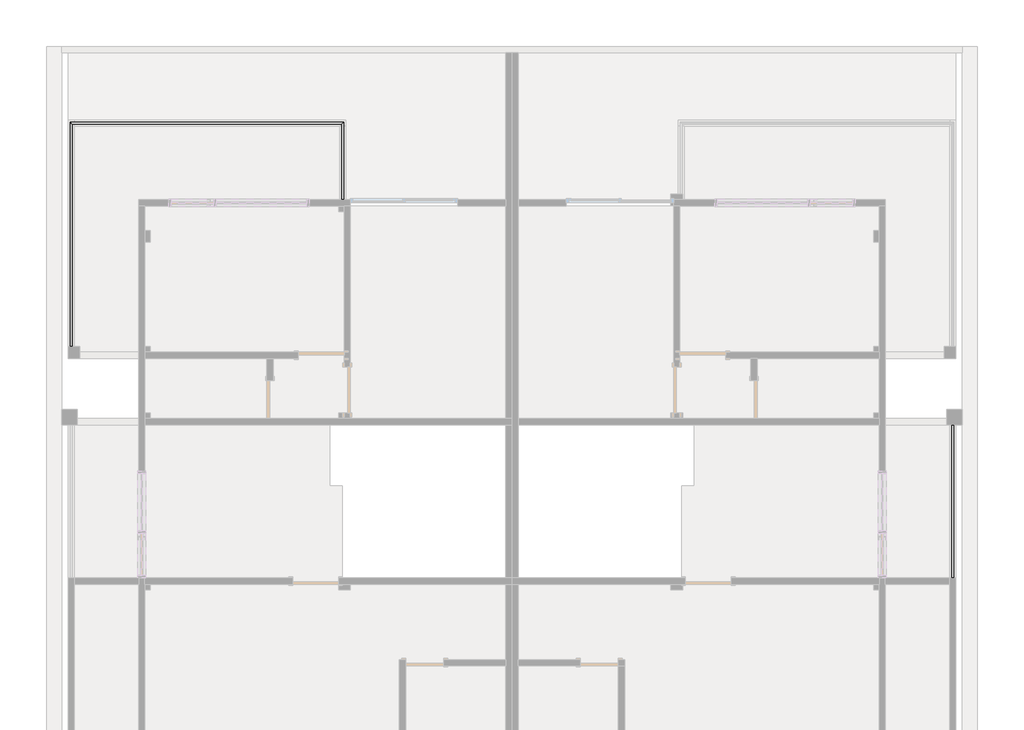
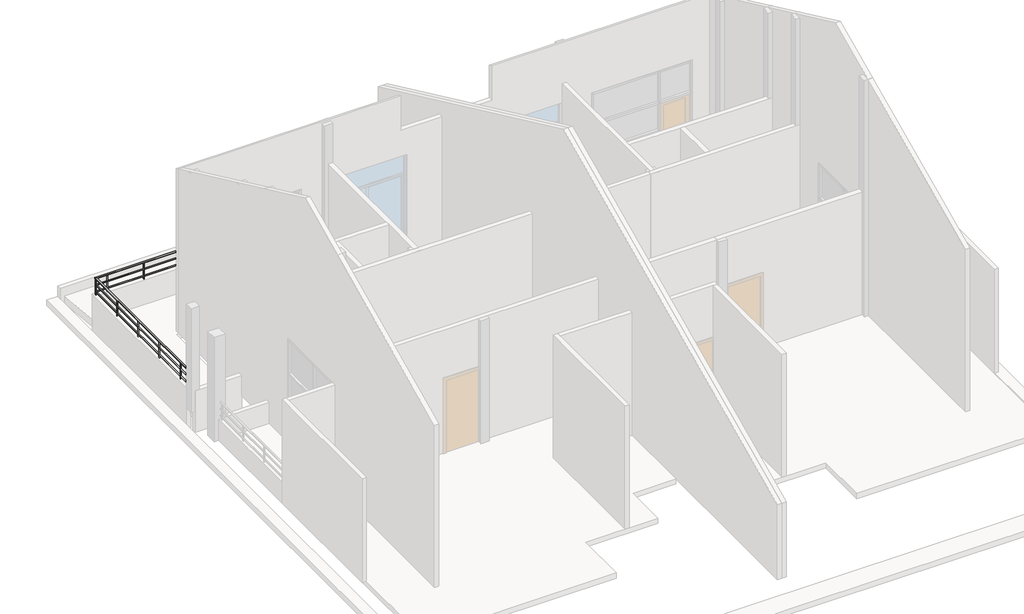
# One storey, part 5 of 6: 2 railings.
"""IFC4 building model written with IfcOpenShell, lengths in millimetres."""

from ifc_helpers import new_model, si_unit, point, frame, frame_2d, origin, place, context, project, spatial, circle_curve, ellipse_curve, trimmed, segment, composite_curve, outline, extrude, element, save
from ifc_brep_helpers import plane_surface, cylinder_surface, advanced_brep

model = new_model("IFC4")

# Units and contexts
model_context = context("Model", 3, world=origin())
ifc_project = project(units=[si_unit("LENGTHUNIT", "METRE", prefix="MILLI")], contexts=[model_context])

# Site, building, storey
site = spatial("IfcSite", under=ifc_project)
building = spatial("IfcBuilding", under=site)
storey = spatial("IfcBuildingStorey", under=building, Name="标高 2", Elevation=3900.0)

# Railings
placement = place(None, origin())
element("IfcRailing", 1, ObjectType="1100mm 圆管", at=placement, inside=storey, context=model_context, shape_type="SolidModel", body=[
    advanced_brep(
    [(-2435.3991115, 10971.4406182, 4980.0), (-2475.3991115, 10971.4406182, 4980.0), (-2435.3991115, 12491.4406182, 4980.0), (-2475.3991115, 12451.4406182, 4980.0), (-7785.3991115, 12491.4406182, 4980.0), (-7745.3991115, 12451.4406182, 4980.0), (-7785.3991115, 8101.4406182, 4980.0), (-7745.3991115, 8101.4406182, 4980.0)],
    [
        (0, 1, circle_curve(frame((-2455.3991115, 10971.4406182, 4980.0), z_axis=(0.0, -1.0, 0.0), x_axis=(-1.0, 0.0, 0.0)), 20.0)),
        (1, 0, circle_curve(frame((-2455.3991115, 10971.4406182, 4980.0), z_axis=(0.0, -1.0, 0.0), x_axis=(-1.0, 0.0, 0.0)), 20.0)),
        (0, 2),
        (2, 3, ellipse_curve(frame((-2455.3991115, 12471.4406182, 4980.0), z_axis=(0.7071067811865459, -0.7071067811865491, 0.0), x_axis=(-0.7071067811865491, -0.7071067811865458, 0.0)), 28.2842712, 20.0)),
        (3, 1),
        (3, 2, ellipse_curve(frame((-2455.3991115, 12471.4406182, 4980.0), z_axis=(0.7071067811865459, -0.7071067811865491, 0.0), x_axis=(-0.7071067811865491, -0.7071067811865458, 0.0)), 28.2842712, 20.0)),
        (2, 4),
        (4, 5, ellipse_curve(frame((-7765.3991115, 12471.4406182, 4980.0), z_axis=(0.7071067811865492, 0.7071067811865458, 0.0), x_axis=(0.7071067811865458, -0.7071067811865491, 0.0)), 28.2842712, 20.0)),
        (5, 3),
        (5, 4, ellipse_curve(frame((-7765.3991115, 12471.4406182, 4980.0), z_axis=(0.7071067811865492, 0.7071067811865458, 0.0), x_axis=(0.7071067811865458, -0.7071067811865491, 0.0)), 28.2842712, 20.0)),
        (6, 7, circle_curve(frame((-7765.3991115, 8101.4406182, 4980.0), z_axis=(0.0, -1.0, 0.0), x_axis=(1.0, 0.0, 0.0)), 20.0)),
        (7, 6, circle_curve(frame((-7765.3991115, 8101.4406182, 4980.0), z_axis=(0.0, -1.0, 0.0), x_axis=(1.0, 0.0, 0.0)), 20.0)),
        (4, 6),
        (7, 5),
    ],
    [
        plane_surface(frame((-2455.3991115, 10971.4406182, 5000.0), z_axis=(0.0, -1.0, 0.0), x_axis=(0.0, 0.0, 1.0))),
        cylinder_surface(frame((-2455.3991115, 10971.4406182, 4980.0), z_axis=(0.0, -1.0, 0.0), x_axis=(-1.0, 0.0, 0.0)), 20.0),
        cylinder_surface(frame((-2455.3991115, 12471.4406182, 4980.0), z_axis=(1.0, 0.0, 0.0), x_axis=(0.0, -1.0, 0.0)), 20.0),
        plane_surface(frame((-7765.3991115, 8101.4406182, 5000.0), z_axis=(0.0, -1.0, 0.0), x_axis=(0.0, 0.0, -1.0))),
        cylinder_surface(frame((-7765.3991115, 12471.4406182, 4980.0), z_axis=(0.0, 1.0, 0.0), x_axis=(1.0, 0.0, 0.0)), 20.0),
    ],
    [
        (0, [[1, 2]]),
        (1, [[-1, 3, 4, 5]]),
        (1, [[-2, -5, 6, -3]]),
        (2, [[-4, 7, 8, 9]]),
        (2, [[-6, -9, 10, -7]]),
        (3, [[11, 12]]),
        (4, [[-8, 13, -12, 14]]),
        (4, [[-10, -14, -11, -13]]),
    ],
),
    advanced_brep(
    [(-2470.3991115, 10971.4406182, 4785.0), (-2440.3991115, 10971.4406182, 4785.0), (-2470.3991115, 12456.4406182, 4785.0), (-2440.3991115, 12486.4406182, 4785.0), (-7750.3991115, 12456.4406182, 4785.0), (-7780.3991115, 12486.4406182, 4785.0), (-7750.3991115, 8101.4406182, 4785.0), (-7780.3991115, 8101.4406182, 4785.0)],
    [
        (0, 1, circle_curve(frame((-2455.3991115, 10971.4406182, 4785.0), z_axis=(0.0, -1.0, 0.0), x_axis=(1.0, 0.0, 0.0)), 15.0)),
        (1, 0, circle_curve(frame((-2455.3991115, 10971.4406182, 4785.0), z_axis=(0.0, -1.0, 0.0), x_axis=(1.0, 0.0, 0.0)), 15.0)),
        (0, 2),
        (2, 3, ellipse_curve(frame((-2455.3991115, 12471.4406182, 4785.0), z_axis=(0.7071067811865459, -0.7071067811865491, 0.0), x_axis=(-0.7071067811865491, -0.7071067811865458, 0.0)), 21.2132034, 15.0)),
        (3, 1),
        (3, 2, ellipse_curve(frame((-2455.3991115, 12471.4406182, 4785.0), z_axis=(0.7071067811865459, -0.7071067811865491, 0.0), x_axis=(-0.7071067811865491, -0.7071067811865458, 0.0)), 21.2132034, 15.0)),
        (2, 4),
        (4, 5, ellipse_curve(frame((-7765.3991115, 12471.4406182, 4785.0), z_axis=(0.7071067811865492, 0.7071067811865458, 0.0), x_axis=(0.7071067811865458, -0.7071067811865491, 0.0)), 21.2132034, 15.0)),
        (5, 3),
        (5, 4, ellipse_curve(frame((-7765.3991115, 12471.4406182, 4785.0), z_axis=(0.7071067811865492, 0.7071067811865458, 0.0), x_axis=(0.7071067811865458, -0.7071067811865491, 0.0)), 21.2132034, 15.0)),
        (6, 7, circle_curve(frame((-7765.3991115, 8101.4406182, 4785.0), z_axis=(0.0, -1.0, 0.0), x_axis=(-1.0, 0.0, 0.0)), 15.0)),
        (7, 6, circle_curve(frame((-7765.3991115, 8101.4406182, 4785.0), z_axis=(0.0, -1.0, 0.0), x_axis=(-1.0, 0.0, 0.0)), 15.0)),
        (4, 6),
        (7, 5),
    ],
    [
        plane_surface(frame((-2455.3991115, 10971.4406182, 4800.0), z_axis=(0.0, -1.0, 0.0), x_axis=(0.0, 0.0, 1.0))),
        cylinder_surface(frame((-2455.3991115, 10971.4406182, 4785.0), z_axis=(0.0, -1.0, 0.0), x_axis=(1.0, 0.0, 0.0)), 15.0),
        cylinder_surface(frame((-2455.3991115, 12471.4406182, 4785.0), z_axis=(1.0, 0.0, 0.0), x_axis=(0.0, 1.0, 0.0)), 15.0),
        plane_surface(frame((-7765.3991115, 8101.4406182, 4800.0), z_axis=(0.0, -1.0, 0.0), x_axis=(0.0, 0.0, -1.0))),
        cylinder_surface(frame((-7765.3991115, 12471.4406182, 4785.0), z_axis=(0.0, 1.0, 0.0), x_axis=(-1.0, 0.0, 0.0)), 15.0),
    ],
    [
        (0, [[1, 2]]),
        (1, [[-1, 3, 4, 5]]),
        (1, [[-2, -5, 6, -3]]),
        (2, [[-4, 7, 8, 9]]),
        (2, [[-6, -9, 10, -7]]),
        (3, [[11, 12]]),
        (4, [[-8, 13, -12, 14]]),
        (4, [[-10, -14, -11, -13]]),
    ],
),
    advanced_brep(
    [(-2470.3991115, 10971.4406182, 4585.0), (-2440.3991115, 10971.4406182, 4585.0), (-2470.3991115, 12456.4406182, 4585.0), (-2440.3991115, 12486.4406182, 4585.0), (-7750.3991115, 12456.4406182, 4585.0), (-7780.3991115, 12486.4406182, 4585.0), (-7750.3991115, 8101.4406182, 4585.0), (-7780.3991115, 8101.4406182, 4585.0)],
    [
        (0, 1, circle_curve(frame((-2455.3991115, 10971.4406182, 4585.0), z_axis=(0.0, -1.0, 0.0), x_axis=(1.0, 0.0, 0.0)), 15.0)),
        (1, 0, circle_curve(frame((-2455.3991115, 10971.4406182, 4585.0), z_axis=(0.0, -1.0, 0.0), x_axis=(1.0, 0.0, 0.0)), 15.0)),
        (0, 2),
        (2, 3, ellipse_curve(frame((-2455.3991115, 12471.4406182, 4585.0), z_axis=(0.7071067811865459, -0.7071067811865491, 0.0), x_axis=(-0.7071067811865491, -0.7071067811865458, 0.0)), 21.2132034, 15.0)),
        (3, 1),
        (3, 2, ellipse_curve(frame((-2455.3991115, 12471.4406182, 4585.0), z_axis=(0.7071067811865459, -0.7071067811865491, 0.0), x_axis=(-0.7071067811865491, -0.7071067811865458, 0.0)), 21.2132034, 15.0)),
        (2, 4),
        (4, 5, ellipse_curve(frame((-7765.3991115, 12471.4406182, 4585.0), z_axis=(0.7071067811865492, 0.7071067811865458, 0.0), x_axis=(0.7071067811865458, -0.7071067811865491, 0.0)), 21.2132034, 15.0)),
        (5, 3),
        (5, 4, ellipse_curve(frame((-7765.3991115, 12471.4406182, 4585.0), z_axis=(0.7071067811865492, 0.7071067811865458, 0.0), x_axis=(0.7071067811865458, -0.7071067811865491, 0.0)), 21.2132034, 15.0)),
        (6, 7, circle_curve(frame((-7765.3991115, 8101.4406182, 4585.0), z_axis=(0.0, -1.0, 0.0), x_axis=(-1.0, 0.0, 0.0)), 15.0)),
        (7, 6, circle_curve(frame((-7765.3991115, 8101.4406182, 4585.0), z_axis=(0.0, -1.0, 0.0), x_axis=(-1.0, 0.0, 0.0)), 15.0)),
        (4, 6),
        (7, 5),
    ],
    [
        plane_surface(frame((-2455.3991115, 10971.4406182, 4600.0), z_axis=(0.0, -1.0, 0.0), x_axis=(0.0, 0.0, 1.0))),
        cylinder_surface(frame((-2455.3991115, 10971.4406182, 4585.0), z_axis=(0.0, -1.0, 0.0), x_axis=(1.0, 0.0, 0.0)), 15.0),
        cylinder_surface(frame((-2455.3991115, 12471.4406182, 4585.0), z_axis=(1.0, 0.0, 0.0), x_axis=(0.0, 1.0, 0.0)), 15.0),
        plane_surface(frame((-7765.3991115, 8101.4406182, 4600.0), z_axis=(0.0, -1.0, 0.0), x_axis=(0.0, 0.0, -1.0))),
        cylinder_surface(frame((-7765.3991115, 12471.4406182, 4585.0), z_axis=(0.0, 1.0, 0.0), x_axis=(-1.0, 0.0, 0.0)), 15.0),
    ],
    [
        (0, [[1, 2]]),
        (1, [[-1, 3, 4, 5]]),
        (1, [[-2, -5, 6, -3]]),
        (2, [[-4, 7, 8, 9]]),
        (2, [[-6, -9, 10, -7]]),
        (3, [[11, 12]]),
        (4, [[-8, 13, -12, 14]]),
        (4, [[-10, -14, -11, -13]]),
    ],
),
    advanced_brep(
    [(-2470.3991115, 10971.4406182, 4385.0), (-2440.3991115, 10971.4406182, 4385.0), (-2470.3991115, 12456.4406182, 4385.0), (-2440.3991115, 12486.4406182, 4385.0), (-7750.3991115, 12456.4406182, 4385.0), (-7780.3991115, 12486.4406182, 4385.0), (-7750.3991115, 8101.4406182, 4385.0), (-7780.3991115, 8101.4406182, 4385.0)],
    [
        (0, 1, circle_curve(frame((-2455.3991115, 10971.4406182, 4385.0), z_axis=(0.0, -1.0, 0.0), x_axis=(1.0, 0.0, 0.0)), 15.0)),
        (1, 0, circle_curve(frame((-2455.3991115, 10971.4406182, 4385.0), z_axis=(0.0, -1.0, 0.0), x_axis=(1.0, 0.0, 0.0)), 15.0)),
        (0, 2),
        (2, 3, ellipse_curve(frame((-2455.3991115, 12471.4406182, 4385.0), z_axis=(0.7071067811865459, -0.7071067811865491, 0.0), x_axis=(-0.7071067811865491, -0.7071067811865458, 0.0)), 21.2132034, 15.0)),
        (3, 1),
        (3, 2, ellipse_curve(frame((-2455.3991115, 12471.4406182, 4385.0), z_axis=(0.7071067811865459, -0.7071067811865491, 0.0), x_axis=(-0.7071067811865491, -0.7071067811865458, 0.0)), 21.2132034, 15.0)),
        (2, 4),
        (4, 5, ellipse_curve(frame((-7765.3991115, 12471.4406182, 4385.0), z_axis=(0.7071067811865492, 0.7071067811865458, 0.0), x_axis=(0.7071067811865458, -0.7071067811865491, 0.0)), 21.2132034, 15.0)),
        (5, 3),
        (5, 4, ellipse_curve(frame((-7765.3991115, 12471.4406182, 4385.0), z_axis=(0.7071067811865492, 0.7071067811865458, 0.0), x_axis=(0.7071067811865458, -0.7071067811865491, 0.0)), 21.2132034, 15.0)),
        (6, 7, circle_curve(frame((-7765.3991115, 8101.4406182, 4385.0), z_axis=(0.0, -1.0, 0.0), x_axis=(-1.0, 0.0, 0.0)), 15.0)),
        (7, 6, circle_curve(frame((-7765.3991115, 8101.4406182, 4385.0), z_axis=(0.0, -1.0, 0.0), x_axis=(-1.0, 0.0, 0.0)), 15.0)),
        (4, 6),
        (7, 5),
    ],
    [
        plane_surface(frame((-2455.3991115, 10971.4406182, 4400.0), z_axis=(0.0, -1.0, 0.0), x_axis=(0.0, 0.0, 1.0))),
        cylinder_surface(frame((-2455.3991115, 10971.4406182, 4385.0), z_axis=(0.0, -1.0, 0.0), x_axis=(1.0, 0.0, 0.0)), 15.0),
        cylinder_surface(frame((-2455.3991115, 12471.4406182, 4385.0), z_axis=(1.0, 0.0, 0.0), x_axis=(0.0, 1.0, 0.0)), 15.0),
        plane_surface(frame((-7765.3991115, 8101.4406182, 4400.0), z_axis=(0.0, -1.0, 0.0), x_axis=(0.0, 0.0, -1.0))),
        cylinder_surface(frame((-7765.3991115, 12471.4406182, 4385.0), z_axis=(0.0, 1.0, 0.0), x_axis=(-1.0, 0.0, 0.0)), 15.0),
    ],
    [
        (0, [[1, 2]]),
        (1, [[-1, 3, 4, 5]]),
        (1, [[-2, -5, 6, -3]]),
        (2, [[-4, 7, 8, 9]]),
        (2, [[-6, -9, 10, -7]]),
        (3, [[11, 12]]),
        (4, [[-8, 13, -12, 14]]),
        (4, [[-10, -14, -11, -13]]),
    ],
),
    advanced_brep(
    [(-2470.3991115, 10971.4406182, 4185.0), (-2440.3991115, 10971.4406182, 4185.0), (-2470.3991115, 12456.4406182, 4185.0), (-2440.3991115, 12486.4406182, 4185.0), (-7750.3991115, 12456.4406182, 4185.0), (-7780.3991115, 12486.4406182, 4185.0), (-7750.3991115, 8101.4406182, 4185.0), (-7780.3991115, 8101.4406182, 4185.0)],
    [
        (0, 1, circle_curve(frame((-2455.3991115, 10971.4406182, 4185.0), z_axis=(0.0, -1.0, 0.0), x_axis=(1.0, 0.0, 0.0)), 15.0)),
        (1, 0, circle_curve(frame((-2455.3991115, 10971.4406182, 4185.0), z_axis=(0.0, -1.0, 0.0), x_axis=(1.0, 0.0, 0.0)), 15.0)),
        (0, 2),
        (2, 3, ellipse_curve(frame((-2455.3991115, 12471.4406182, 4185.0), z_axis=(0.7071067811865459, -0.7071067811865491, 0.0), x_axis=(-0.7071067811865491, -0.7071067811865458, 0.0)), 21.2132034, 15.0)),
        (3, 1),
        (3, 2, ellipse_curve(frame((-2455.3991115, 12471.4406182, 4185.0), z_axis=(0.7071067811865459, -0.7071067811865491, 0.0), x_axis=(-0.7071067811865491, -0.7071067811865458, 0.0)), 21.2132034, 15.0)),
        (2, 4),
        (4, 5, ellipse_curve(frame((-7765.3991115, 12471.4406182, 4185.0), z_axis=(0.7071067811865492, 0.7071067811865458, 0.0), x_axis=(0.7071067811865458, -0.7071067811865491, 0.0)), 21.2132034, 15.0)),
        (5, 3),
        (5, 4, ellipse_curve(frame((-7765.3991115, 12471.4406182, 4185.0), z_axis=(0.7071067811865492, 0.7071067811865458, 0.0), x_axis=(0.7071067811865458, -0.7071067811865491, 0.0)), 21.2132034, 15.0)),
        (6, 7, circle_curve(frame((-7765.3991115, 8101.4406182, 4185.0), z_axis=(0.0, -1.0, 0.0), x_axis=(-1.0, 0.0, 0.0)), 15.0)),
        (7, 6, circle_curve(frame((-7765.3991115, 8101.4406182, 4185.0), z_axis=(0.0, -1.0, 0.0), x_axis=(-1.0, 0.0, 0.0)), 15.0)),
        (4, 6),
        (7, 5),
    ],
    [
        plane_surface(frame((-2455.3991115, 10971.4406182, 4200.0), z_axis=(0.0, -1.0, 0.0), x_axis=(0.0, 0.0, 1.0))),
        cylinder_surface(frame((-2455.3991115, 10971.4406182, 4185.0), z_axis=(0.0, -1.0, 0.0), x_axis=(1.0, 0.0, 0.0)), 15.0),
        cylinder_surface(frame((-2455.3991115, 12471.4406182, 4185.0), z_axis=(1.0, 0.0, 0.0), x_axis=(0.0, 1.0, 0.0)), 15.0),
        plane_surface(frame((-7765.3991115, 8101.4406182, 4200.0), z_axis=(0.0, -1.0, 0.0), x_axis=(0.0, 0.0, -1.0))),
        cylinder_surface(frame((-7765.3991115, 12471.4406182, 4185.0), z_axis=(0.0, 1.0, 0.0), x_axis=(-1.0, 0.0, 0.0)), 15.0),
    ],
    [
        (0, [[1, 2]]),
        (1, [[-1, 3, 4, 5]]),
        (1, [[-2, -5, 6, -3]]),
        (2, [[-4, 7, 8, 9]]),
        (2, [[-6, -9, 10, -7]]),
        (3, [[11, 12]]),
        (4, [[-8, 13, -12, 14]]),
        (4, [[-10, -14, -11, -13]]),
    ],
),
    advanced_brep(
    [(-2470.3991115, 10971.4406182, 3985.0), (-2440.3991115, 10971.4406182, 3985.0), (-2470.3991115, 12456.4406182, 3985.0), (-2440.3991115, 12486.4406182, 3985.0), (-7750.3991115, 12456.4406182, 3985.0), (-7780.3991115, 12486.4406182, 3985.0), (-7750.3991115, 8101.4406182, 3985.0), (-7780.3991115, 8101.4406182, 3985.0)],
    [
        (0, 1, circle_curve(frame((-2455.3991115, 10971.4406182, 3985.0), z_axis=(0.0, -1.0, 0.0), x_axis=(1.0, 0.0, 0.0)), 15.0)),
        (1, 0, circle_curve(frame((-2455.3991115, 10971.4406182, 3985.0), z_axis=(0.0, -1.0, 0.0), x_axis=(1.0, 0.0, 0.0)), 15.0)),
        (0, 2),
        (2, 3, ellipse_curve(frame((-2455.3991115, 12471.4406182, 3985.0), z_axis=(0.7071067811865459, -0.7071067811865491, 0.0), x_axis=(-0.7071067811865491, -0.7071067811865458, 0.0)), 21.2132034, 15.0)),
        (3, 1),
        (3, 2, ellipse_curve(frame((-2455.3991115, 12471.4406182, 3985.0), z_axis=(0.7071067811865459, -0.7071067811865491, 0.0), x_axis=(-0.7071067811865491, -0.7071067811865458, 0.0)), 21.2132034, 15.0)),
        (2, 4),
        (4, 5, ellipse_curve(frame((-7765.3991115, 12471.4406182, 3985.0), z_axis=(0.7071067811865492, 0.7071067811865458, 0.0), x_axis=(0.7071067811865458, -0.7071067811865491, 0.0)), 21.2132034, 15.0)),
        (5, 3),
        (5, 4, ellipse_curve(frame((-7765.3991115, 12471.4406182, 3985.0), z_axis=(0.7071067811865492, 0.7071067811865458, 0.0), x_axis=(0.7071067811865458, -0.7071067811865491, 0.0)), 21.2132034, 15.0)),
        (6, 7, circle_curve(frame((-7765.3991115, 8101.4406182, 3985.0), z_axis=(0.0, -1.0, 0.0), x_axis=(-1.0, 0.0, 0.0)), 15.0)),
        (7, 6, circle_curve(frame((-7765.3991115, 8101.4406182, 3985.0), z_axis=(0.0, -1.0, 0.0), x_axis=(-1.0, 0.0, 0.0)), 15.0)),
        (4, 6),
        (7, 5),
    ],
    [
        plane_surface(frame((-2455.3991115, 10971.4406182, 4000.0), z_axis=(0.0, -1.0, 0.0), x_axis=(0.0, 0.0, 1.0))),
        cylinder_surface(frame((-2455.3991115, 10971.4406182, 3985.0), z_axis=(0.0, -1.0, 0.0), x_axis=(1.0, 0.0, 0.0)), 15.0),
        cylinder_surface(frame((-2455.3991115, 12471.4406182, 3985.0), z_axis=(1.0, 0.0, 0.0), x_axis=(0.0, 1.0, 0.0)), 15.0),
        plane_surface(frame((-7765.3991115, 8101.4406182, 4000.0), z_axis=(0.0, -1.0, 0.0), x_axis=(0.0, 0.0, -1.0))),
        cylinder_surface(frame((-7765.3991115, 12471.4406182, 3985.0), z_axis=(0.0, 1.0, 0.0), x_axis=(-1.0, 0.0, 0.0)), 15.0),
    ],
    [
        (0, [[1, 2]]),
        (1, [[-1, 3, 4, 5]]),
        (1, [[-2, -5, 6, -3]]),
        (2, [[-4, 7, 8, 9]]),
        (2, [[-6, -9, 10, -7]]),
        (3, [[11, 12]]),
        (4, [[-8, 13, -12, 14]]),
        (4, [[-10, -14, -11, -13]]),
    ],
),
    extrude(outline(composite_curve([segment(trimmed(circle_curve(frame_2d((-7765.3991115, 8471.4406182)), 12.5), [point((-7752.8991115, 8471.4406182))], [point((-7777.8991115, 8471.4406182))], False, "CARTESIAN"), True, "CONTINUOUS"), segment(trimmed(circle_curve(frame_2d((-7765.3991115, 8471.4406182)), 12.5), [point((-7777.8991115, 8471.4406182))], [point((-7752.8991115, 8471.4406182))], False, "CARTESIAN"), True, "CONTINUOUS")], self_intersect=False)), frame((0.0, 0.0, 3900.0), z_axis=(0.0, 0.0, 1.0), x_axis=(1.0, 0.0, 0.0)), (0.0, 0.0, 1.0), 1060.0),
    extrude(outline(composite_curve([segment(trimmed(circle_curve(frame_2d((-7765.3991115, 9471.4406182)), 12.5), [point((-7752.8991115, 9471.4406182))], [point((-7777.8991115, 9471.4406182))], False, "CARTESIAN"), True, "CONTINUOUS"), segment(trimmed(circle_curve(frame_2d((-7765.3991115, 9471.4406182)), 12.5), [point((-7777.8991115, 9471.4406182))], [point((-7752.8991115, 9471.4406182))], False, "CARTESIAN"), True, "CONTINUOUS")], self_intersect=False)), frame((0.0, 0.0, 3900.0), z_axis=(0.0, 0.0, 1.0), x_axis=(1.0, 0.0, 0.0)), (0.0, 0.0, 1.0), 1060.0),
    extrude(outline(composite_curve([segment(trimmed(circle_curve(frame_2d((-7765.3991115, 10471.4406182)), 12.5), [point((-7752.8991115, 10471.4406182))], [point((-7777.8991115, 10471.4406182))], False, "CARTESIAN"), True, "CONTINUOUS"), segment(trimmed(circle_curve(frame_2d((-7765.3991115, 10471.4406182)), 12.5), [point((-7777.8991115, 10471.4406182))], [point((-7752.8991115, 10471.4406182))], False, "CARTESIAN"), True, "CONTINUOUS")], self_intersect=False)), frame((0.0, 0.0, 3900.0), z_axis=(0.0, 0.0, 1.0), x_axis=(1.0, 0.0, 0.0)), (0.0, 0.0, 1.0), 1060.0),
    extrude(outline(composite_curve([segment(trimmed(circle_curve(frame_2d((-7765.3991115, 11471.4406182)), 12.5), [point((-7752.8991115, 11471.4406182))], [point((-7777.8991115, 11471.4406182))], False, "CARTESIAN"), True, "CONTINUOUS"), segment(trimmed(circle_curve(frame_2d((-7765.3991115, 11471.4406182)), 12.5), [point((-7777.8991115, 11471.4406182))], [point((-7752.8991115, 11471.4406182))], False, "CARTESIAN"), True, "CONTINUOUS")], self_intersect=False)), frame((0.0, 0.0, 3900.0), z_axis=(0.0, 0.0, 1.0), x_axis=(1.0, 0.0, 0.0)), (0.0, 0.0, 1.0), 1060.0),
    extrude(outline(composite_curve([segment(trimmed(circle_curve(frame_2d((-7455.3991115, 12471.4406182)), 12.5), [point((-7455.3991115, 12458.9406182))], [point((-7455.3991115, 12483.9406182))], False, "CARTESIAN"), True, "CONTINUOUS"), segment(trimmed(circle_curve(frame_2d((-7455.3991115, 12471.4406182)), 12.5), [point((-7455.3991115, 12483.9406182))], [point((-7455.3991115, 12458.9406182))], False, "CARTESIAN"), True, "CONTINUOUS")], self_intersect=False)), frame((0.0, 0.0, 3900.0), z_axis=(0.0, 0.0, 1.0), x_axis=(1.0, 0.0, 0.0)), (0.0, 0.0, 1.0), 1060.0),
    extrude(outline(composite_curve([segment(trimmed(circle_curve(frame_2d((-6455.3991115, 12471.4406182)), 12.5), [point((-6455.3991115, 12458.9406182))], [point((-6455.3991115, 12483.9406182))], False, "CARTESIAN"), True, "CONTINUOUS"), segment(trimmed(circle_curve(frame_2d((-6455.3991115, 12471.4406182)), 12.5), [point((-6455.3991115, 12483.9406182))], [point((-6455.3991115, 12458.9406182))], False, "CARTESIAN"), True, "CONTINUOUS")], self_intersect=False)), frame((0.0, 0.0, 3900.0), z_axis=(0.0, 0.0, 1.0), x_axis=(1.0, 0.0, 0.0)), (0.0, 0.0, 1.0), 1060.0),
    extrude(outline(composite_curve([segment(trimmed(circle_curve(frame_2d((-5455.3991115, 12471.4406182)), 12.5), [point((-5455.3991115, 12458.9406182))], [point((-5455.3991115, 12483.9406182))], False, "CARTESIAN"), True, "CONTINUOUS"), segment(trimmed(circle_curve(frame_2d((-5455.3991115, 12471.4406182)), 12.5), [point((-5455.3991115, 12483.9406182))], [point((-5455.3991115, 12458.9406182))], False, "CARTESIAN"), True, "CONTINUOUS")], self_intersect=False)), frame((0.0, 0.0, 3900.0), z_axis=(0.0, 0.0, 1.0), x_axis=(1.0, 0.0, 0.0)), (0.0, 0.0, 1.0), 1060.0),
    extrude(outline(composite_curve([segment(trimmed(circle_curve(frame_2d((-4455.3991115, 12471.4406182)), 12.5), [point((-4455.3991115, 12458.9406182))], [point((-4455.3991115, 12483.9406182))], False, "CARTESIAN"), True, "CONTINUOUS"), segment(trimmed(circle_curve(frame_2d((-4455.3991115, 12471.4406182)), 12.5), [point((-4455.3991115, 12483.9406182))], [point((-4455.3991115, 12458.9406182))], False, "CARTESIAN"), True, "CONTINUOUS")], self_intersect=False)), frame((0.0, 0.0, 3900.0), z_axis=(0.0, 0.0, 1.0), x_axis=(1.0, 0.0, 0.0)), (0.0, 0.0, 1.0), 1060.0),
    extrude(outline(composite_curve([segment(trimmed(circle_curve(frame_2d((-3455.3991115, 12471.4406182)), 12.5), [point((-3455.3991115, 12458.9406182))], [point((-3455.3991115, 12483.9406182))], False, "CARTESIAN"), True, "CONTINUOUS"), segment(trimmed(circle_curve(frame_2d((-3455.3991115, 12471.4406182)), 12.5), [point((-3455.3991115, 12483.9406182))], [point((-3455.3991115, 12458.9406182))], False, "CARTESIAN"), True, "CONTINUOUS")], self_intersect=False)), frame((0.0, 0.0, 3900.0), z_axis=(0.0, 0.0, 1.0), x_axis=(1.0, 0.0, 0.0)), (0.0, 0.0, 1.0), 1060.0),
    extrude(outline(composite_curve([segment(trimmed(circle_curve(frame_2d((-2455.3991115, 11971.4406182)), 12.5), [point((-2467.8991115, 11971.4406182))], [point((-2442.8991115, 11971.4406182))], False, "CARTESIAN"), True, "CONTINUOUS"), segment(trimmed(circle_curve(frame_2d((-2455.3991115, 11971.4406182)), 12.5), [point((-2442.8991115, 11971.4406182))], [point((-2467.8991115, 11971.4406182))], False, "CARTESIAN"), True, "CONTINUOUS")], self_intersect=False)), frame((0.0, 0.0, 3900.0), z_axis=(0.0, 0.0, 1.0), x_axis=(1.0, 0.0, 0.0)), (0.0, 0.0, 1.0), 1060.0),
    extrude(outline(composite_curve([segment(trimmed(circle_curve(frame_2d((-7765.3991115, 12471.4406182)), 12.5), [point((-7765.3991115, 12458.9406182))], [point((-7765.3991115, 12483.9406182))], False, "CARTESIAN"), True, "CONTINUOUS"), segment(trimmed(circle_curve(frame_2d((-7765.3991115, 12471.4406182)), 12.5), [point((-7765.3991115, 12483.9406182))], [point((-7765.3991115, 12458.9406182))], False, "CARTESIAN"), True, "CONTINUOUS")], self_intersect=False)), frame((0.0, 0.0, 3900.0), z_axis=(0.0, 0.0, 1.0), x_axis=(1.0, 0.0, 0.0)), (0.0, 0.0, 1.0), 1060.0),
    extrude(outline(composite_curve([segment(trimmed(circle_curve(frame_2d((-2455.3991115, 12471.4406182)), 12.5), [point((-2467.8991115, 12471.4406182))], [point((-2442.8991115, 12471.4406182))], False, "CARTESIAN"), True, "CONTINUOUS"), segment(trimmed(circle_curve(frame_2d((-2455.3991115, 12471.4406182)), 12.5), [point((-2442.8991115, 12471.4406182))], [point((-2467.8991115, 12471.4406182))], False, "CARTESIAN"), True, "CONTINUOUS")], self_intersect=False)), frame((0.0, 0.0, 3900.0), z_axis=(0.0, 0.0, 1.0), x_axis=(1.0, 0.0, 0.0)), (0.0, 0.0, 1.0), 1060.0),
    extrude(outline(composite_curve([segment(trimmed(circle_curve(frame_2d((-7765.3991115, 8113.9406182)), 12.5), [point((-7752.8991115, 8113.9406182))], [point((-7777.8991115, 8113.9406182))], False, "CARTESIAN"), True, "CONTINUOUS"), segment(trimmed(circle_curve(frame_2d((-7765.3991115, 8113.9406182)), 12.5), [point((-7777.8991115, 8113.9406182))], [point((-7752.8991115, 8113.9406182))], False, "CARTESIAN"), True, "CONTINUOUS")], self_intersect=False)), frame((0.0, 0.0, 3900.0), z_axis=(0.0, 0.0, 1.0), x_axis=(1.0, 0.0, 0.0)), (0.0, 0.0, 1.0), 1060.0),
    extrude(outline(composite_curve([segment(trimmed(circle_curve(frame_2d((-2455.3991115, 10983.9406182)), 12.5), [point((-2467.8991115, 10983.9406182))], [point((-2442.8991115, 10983.9406182))], False, "CARTESIAN"), True, "CONTINUOUS"), segment(trimmed(circle_curve(frame_2d((-2455.3991115, 10983.9406182)), 12.5), [point((-2442.8991115, 10983.9406182))], [point((-2467.8991115, 10983.9406182))], False, "CARTESIAN"), True, "CONTINUOUS")], self_intersect=False)), frame((0.0, 0.0, 3900.0), z_axis=(0.0, 0.0, 1.0), x_axis=(1.0, 0.0, 0.0)), (0.0, 0.0, 1.0), 1060.0),
])
element("IfcRailing", 2, ObjectType="1100mm 圆管", at=placement, inside=storey, context=model_context, shape_type="SweptSolid", body=[
    extrude(outline(composite_curve([segment(trimmed(circle_curve(frame_2d((4980.0, 9474.6008885)), 20.0), [point((4980.0, 9494.6008885))], [point((4980.0, 9454.6008885))], False, "CARTESIAN"), True, "CONTINUOUS"), segment(trimmed(circle_curve(frame_2d((4980.0, 9474.6008885)), 20.0), [point((4980.0, 9454.6008885))], [point((4980.0, 9494.6008885))], False, "CARTESIAN"), True, "CONTINUOUS")], self_intersect=False)), frame((0.0, 3511.4406182, 0.0), z_axis=(0.0, 1.0, 0.0), x_axis=(0.0, 0.0, 1.0)), (0.0, 0.0, 1.0), 3120.0),
    extrude(outline(composite_curve([segment(trimmed(circle_curve(frame_2d((4785.0, 9474.6008885)), 15.0), [point((4785.0, 9489.6008885))], [point((4785.0, 9459.6008885))], False, "CARTESIAN"), True, "CONTINUOUS"), segment(trimmed(circle_curve(frame_2d((4785.0, 9474.6008885)), 15.0), [point((4785.0, 9459.6008885))], [point((4785.0, 9489.6008885))], False, "CARTESIAN"), True, "CONTINUOUS")], self_intersect=False)), frame((0.0, 3511.4406182, 0.0), z_axis=(0.0, 1.0, 0.0), x_axis=(0.0, 0.0, 1.0)), (0.0, 0.0, 1.0), 3120.0),
    extrude(outline(composite_curve([segment(trimmed(circle_curve(frame_2d((4585.0, 9474.6008885)), 15.0), [point((4585.0, 9489.6008885))], [point((4585.0, 9459.6008885))], False, "CARTESIAN"), True, "CONTINUOUS"), segment(trimmed(circle_curve(frame_2d((4585.0, 9474.6008885)), 15.0), [point((4585.0, 9459.6008885))], [point((4585.0, 9489.6008885))], False, "CARTESIAN"), True, "CONTINUOUS")], self_intersect=False)), frame((0.0, 3511.4406182, 0.0), z_axis=(0.0, 1.0, 0.0), x_axis=(0.0, 0.0, 1.0)), (0.0, 0.0, 1.0), 3120.0),
    extrude(outline(composite_curve([segment(trimmed(circle_curve(frame_2d((4385.0, 9474.6008885)), 15.0), [point((4385.0, 9489.6008885))], [point((4385.0, 9459.6008885))], False, "CARTESIAN"), True, "CONTINUOUS"), segment(trimmed(circle_curve(frame_2d((4385.0, 9474.6008885)), 15.0), [point((4385.0, 9459.6008885))], [point((4385.0, 9489.6008885))], False, "CARTESIAN"), True, "CONTINUOUS")], self_intersect=False)), frame((0.0, 3511.4406182, 0.0), z_axis=(0.0, 1.0, 0.0), x_axis=(0.0, 0.0, 1.0)), (0.0, 0.0, 1.0), 3120.0),
    extrude(outline(composite_curve([segment(trimmed(circle_curve(frame_2d((4185.0, 9474.6008885)), 15.0), [point((4185.0, 9489.6008885))], [point((4185.0, 9459.6008885))], False, "CARTESIAN"), True, "CONTINUOUS"), segment(trimmed(circle_curve(frame_2d((4185.0, 9474.6008885)), 15.0), [point((4185.0, 9459.6008885))], [point((4185.0, 9489.6008885))], False, "CARTESIAN"), True, "CONTINUOUS")], self_intersect=False)), frame((0.0, 3511.4406182, 0.0), z_axis=(0.0, 1.0, 0.0), x_axis=(0.0, 0.0, 1.0)), (0.0, 0.0, 1.0), 3120.0),
    extrude(outline(composite_curve([segment(trimmed(circle_curve(frame_2d((3985.0, 9474.6008885)), 15.0), [point((3985.0, 9489.6008885))], [point((3985.0, 9459.6008885))], False, "CARTESIAN"), True, "CONTINUOUS"), segment(trimmed(circle_curve(frame_2d((3985.0, 9474.6008885)), 15.0), [point((3985.0, 9459.6008885))], [point((3985.0, 9489.6008885))], False, "CARTESIAN"), True, "CONTINUOUS")], self_intersect=False)), frame((0.0, 3511.4406182, 0.0), z_axis=(0.0, 1.0, 0.0), x_axis=(0.0, 0.0, 1.0)), (0.0, 0.0, 1.0), 3120.0),
    extrude(outline(composite_curve([segment(trimmed(circle_curve(frame_2d((9474.6008885, 6511.4406182)), 12.5), [point((9487.1008885, 6511.4406182))], [point((9462.1008885, 6511.4406182))], False, "CARTESIAN"), True, "CONTINUOUS"), segment(trimmed(circle_curve(frame_2d((9474.6008885, 6511.4406182)), 12.5), [point((9462.1008885, 6511.4406182))], [point((9487.1008885, 6511.4406182))], False, "CARTESIAN"), True, "CONTINUOUS")], self_intersect=False)), frame((0.0, 0.0, 3900.0), z_axis=(0.0, 0.0, 1.0), x_axis=(1.0, 0.0, 0.0)), (0.0, 0.0, 1.0), 1060.0),
    extrude(outline(composite_curve([segment(trimmed(circle_curve(frame_2d((9474.6008885, 5511.4406182)), 12.5), [point((9487.1008885, 5511.4406182))], [point((9462.1008885, 5511.4406182))], False, "CARTESIAN"), True, "CONTINUOUS"), segment(trimmed(circle_curve(frame_2d((9474.6008885, 5511.4406182)), 12.5), [point((9462.1008885, 5511.4406182))], [point((9487.1008885, 5511.4406182))], False, "CARTESIAN"), True, "CONTINUOUS")], self_intersect=False)), frame((0.0, 0.0, 3900.0), z_axis=(0.0, 0.0, 1.0), x_axis=(1.0, 0.0, 0.0)), (0.0, 0.0, 1.0), 1060.0),
    extrude(outline(composite_curve([segment(trimmed(circle_curve(frame_2d((9474.6008885, 4511.4406182)), 12.5), [point((9487.1008885, 4511.4406182))], [point((9462.1008885, 4511.4406182))], False, "CARTESIAN"), True, "CONTINUOUS"), segment(trimmed(circle_curve(frame_2d((9474.6008885, 4511.4406182)), 12.5), [point((9462.1008885, 4511.4406182))], [point((9487.1008885, 4511.4406182))], False, "CARTESIAN"), True, "CONTINUOUS")], self_intersect=False)), frame((0.0, 0.0, 3900.0), z_axis=(0.0, 0.0, 1.0), x_axis=(1.0, 0.0, 0.0)), (0.0, 0.0, 1.0), 1060.0),
    extrude(outline(composite_curve([segment(trimmed(circle_curve(frame_2d((9474.6008885, 6618.9406182)), 12.5), [point((9487.1008885, 6618.9406182))], [point((9462.1008885, 6618.9406182))], False, "CARTESIAN"), True, "CONTINUOUS"), segment(trimmed(circle_curve(frame_2d((9474.6008885, 6618.9406182)), 12.5), [point((9462.1008885, 6618.9406182))], [point((9487.1008885, 6618.9406182))], False, "CARTESIAN"), True, "CONTINUOUS")], self_intersect=False)), frame((0.0, 0.0, 3900.0), z_axis=(0.0, 0.0, 1.0), x_axis=(1.0, 0.0, 0.0)), (0.0, 0.0, 1.0), 1060.0),
    extrude(outline(composite_curve([segment(trimmed(circle_curve(frame_2d((9474.6008885, 3523.9406182)), 12.5), [point((9487.1008885, 3523.9406182))], [point((9462.1008885, 3523.9406182))], False, "CARTESIAN"), True, "CONTINUOUS"), segment(trimmed(circle_curve(frame_2d((9474.6008885, 3523.9406182)), 12.5), [point((9462.1008885, 3523.9406182))], [point((9487.1008885, 3523.9406182))], False, "CARTESIAN"), True, "CONTINUOUS")], self_intersect=False)), frame((0.0, 0.0, 3900.0), z_axis=(0.0, 0.0, 1.0), x_axis=(1.0, 0.0, 0.0)), (0.0, 0.0, 1.0), 1060.0),
])

save(model, "model.ifc")
